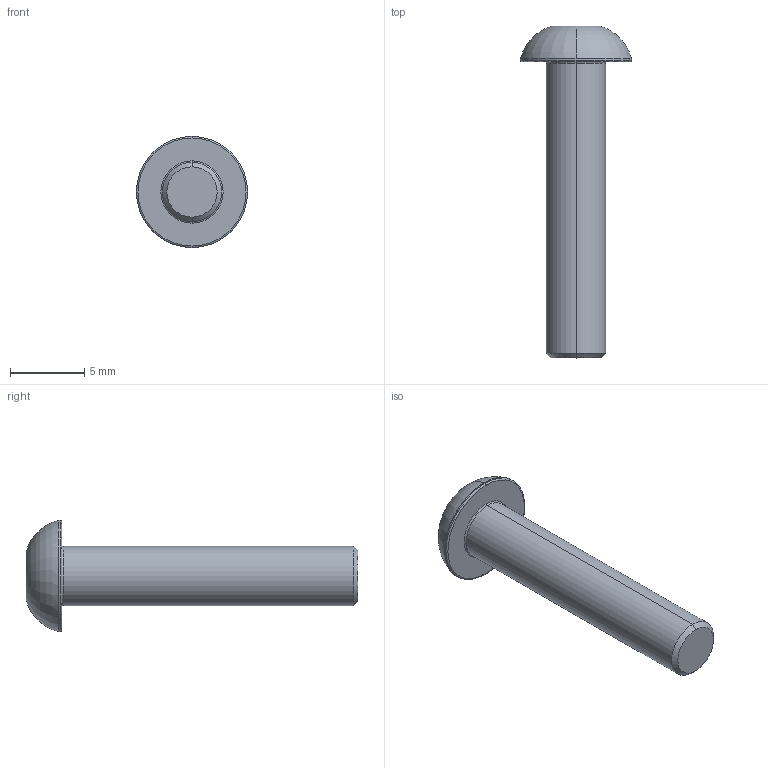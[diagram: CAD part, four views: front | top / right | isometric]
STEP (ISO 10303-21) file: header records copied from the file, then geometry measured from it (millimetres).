
FILE_DESCRIPTION (( 'STEP AP203' ), '1' );
FILE_NAME ('LGDD-TD-M4x20.STEP', '2026-08-14T01:21:06', ( '' ), ( '' ), 'SwSTEP 2.0', 'SolidWorks 2020', '' );
FILE_SCHEMA (( 'CONFIG_CONTROL_DESIGN' ));
Length unit declared in the file: millimetre
Products named in the file (1): LGDD-TD-M4x20
Bounding box: 7.5 x 22.4 x 7.5 mm (x, y, z)
Volume: 318 mm3; surface area: 377 mm2
Topology: 1 solids, 1 shells, 31 faces, 59 edges, 32 vertices
Faces by surface type: plane 10, cone 9, torus 8, cylinder 4
Entity records: 864 total; most frequent: CARTESIAN_POINT 154, DIRECTION 149, ORIENTED_EDGE 118, AXIS2_PLACEMENT_3D 65, EDGE_CURVE 59, CIRCLE 33, EDGE_LOOP 33, VERTEX_POINT 32
